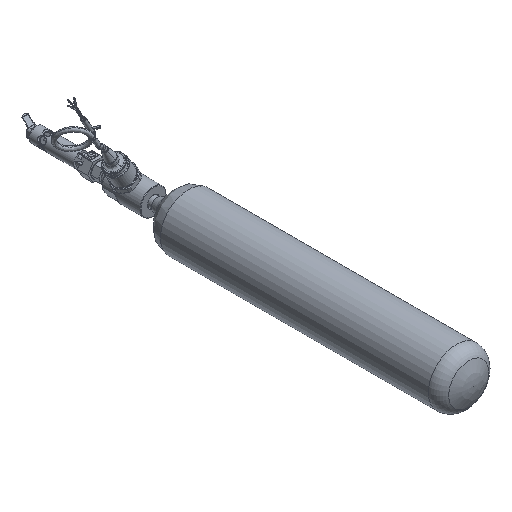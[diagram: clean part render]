
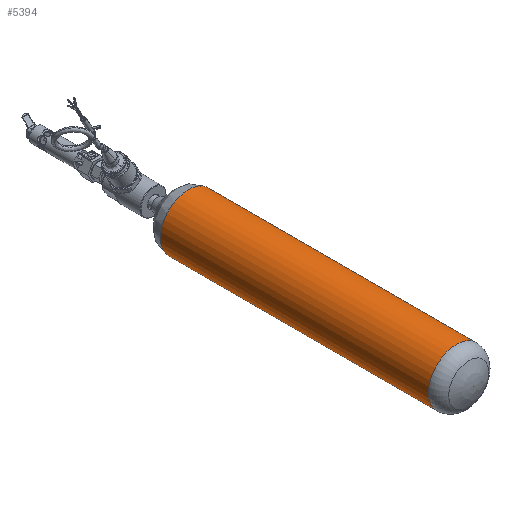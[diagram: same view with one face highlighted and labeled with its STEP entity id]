
A CAD part, isometric view. The second image highlights one B-rep face of the part: STEP entity #5394.
In plain terms, the highlighted cylindrical face has radius 30.15 mm (diameter 60.3 mm), a full revolution.
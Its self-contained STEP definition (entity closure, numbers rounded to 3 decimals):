
#523=CYLINDRICAL_SURFACE('',#5758,30.15);
#702=CIRCLE('',#5736,30.15);
#705=CIRCLE('',#5739,30.15);
#718=CIRCLE('',#5756,30.15);
#719=CIRCLE('',#5757,30.15);
#1001=FACE_OUTER_BOUND('',#1314,.T.);
#1314=EDGE_LOOP('',(#4539,#4540,#4541,#4542,#4543,#4544));
#1587=LINE('',#17325,#1847);
#1847=VECTOR('',#6670,30.15);
#2314=VERTEX_POINT('',#17230);
#2315=VERTEX_POINT('',#17231);
#2327=VERTEX_POINT('',#17319);
#2328=VERTEX_POINT('',#17321);
#3061=EDGE_CURVE('',#2314,#2315,#702,.T.);
#3064=EDGE_CURVE('',#2315,#2314,#705,.T.);
#3080=EDGE_CURVE('',#2327,#2328,#718,.T.);
#3081=EDGE_CURVE('',#2328,#2327,#719,.T.);
#3082=EDGE_CURVE('',#2328,#2315,#1587,.T.);
#4539=ORIENTED_EDGE('',*,*,#3080,.F.);
#4540=ORIENTED_EDGE('',*,*,#3081,.F.);
#4541=ORIENTED_EDGE('',*,*,#3082,.T.);
#4542=ORIENTED_EDGE('',*,*,#3064,.T.);
#4543=ORIENTED_EDGE('',*,*,#3061,.T.);
#4544=ORIENTED_EDGE('',*,*,#3082,.F.);
#5394=ADVANCED_FACE('',(#1001),#523,.T.);
#5736=AXIS2_PLACEMENT_3D('',#17232,#6621,#6622);
#5739=AXIS2_PLACEMENT_3D('',#17236,#6627,#6628);
#5756=AXIS2_PLACEMENT_3D('',#17322,#6664,#6665);
#5757=AXIS2_PLACEMENT_3D('',#17323,#6666,#6667);
#5758=AXIS2_PLACEMENT_3D('',#17324,#6668,#6669);
#6621=DIRECTION('center_axis',(0.,1.,0.));
#6622=DIRECTION('ref_axis',(1.,0.,0.));
#6627=DIRECTION('center_axis',(0.,1.,0.));
#6628=DIRECTION('ref_axis',(1.,0.,0.));
#6664=DIRECTION('center_axis',(0.,1.,0.));
#6665=DIRECTION('ref_axis',(1.,0.,0.));
#6666=DIRECTION('center_axis',(0.,1.,0.));
#6667=DIRECTION('ref_axis',(1.,0.,0.));
#6668=DIRECTION('center_axis',(0.,1.,0.));
#6669=DIRECTION('ref_axis',(-1.,0.,0.));
#6670=DIRECTION('',(0.,-1.,0.));
#17230=CARTESIAN_POINT('',(0.,18.272,-30.15));
#17231=CARTESIAN_POINT('',(30.15,18.272,0.));
#17232=CARTESIAN_POINT('Origin',(0.,18.272,0.));
#17236=CARTESIAN_POINT('Origin',(0.,18.272,0.));
#17319=CARTESIAN_POINT('',(0.,308.143,-30.15));
#17321=CARTESIAN_POINT('',(30.15,308.143,0.));
#17322=CARTESIAN_POINT('Origin',(0.,308.143,0.));
#17323=CARTESIAN_POINT('Origin',(0.,308.143,0.));
#17324=CARTESIAN_POINT('Origin',(0.,299.995,0.));
#17325=CARTESIAN_POINT('',(30.15,299.995,0.));
